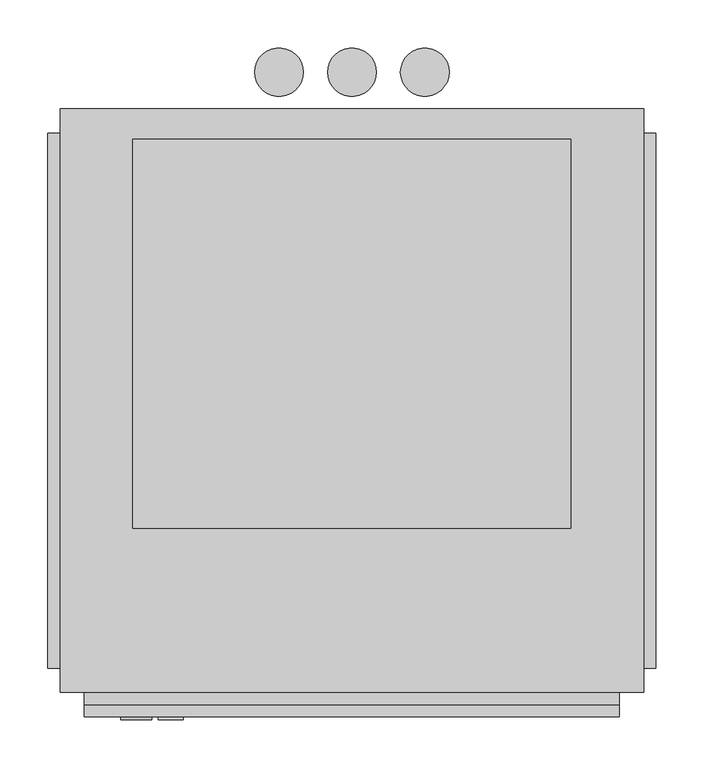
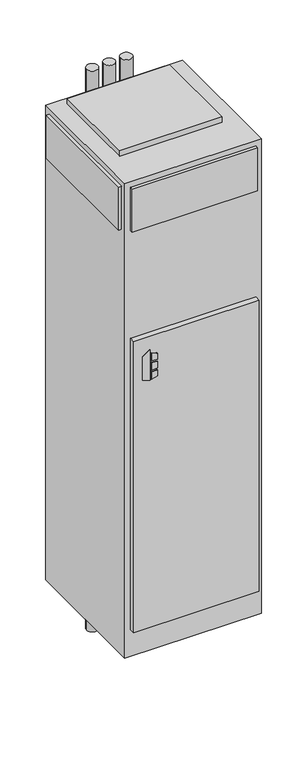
"""IFC4 building model written with IfcOpenShell, lengths in millimetres: proxy geometry, Concealed_Modular_Fan_Coil_Unit_-_MPY_-_IEC_-_2-Pipe_Cool-EHeat_-_WithRisers_2022 : Size 10 - 277v/60Hz/1Ph - 4 Row 8.0kW."""

from ifc_helpers import new_model, si_unit, point, frame, frame_2d, origin, origin_with_axes, place, context, project, spatial, polyline, circle_curve, trimmed, segment, composite_curve, outline, extrude, source, transform, mapped, element, save


def mechanical_equipment_66c7af25(model_context):
    return source(origin(), model_context, "Body", "SweptSolid", [
        extrude(outline(polyline([(1305.3480703, 215.9), (1295.4, 248.0733866), (1437.5709244, 248.0733866), (1414.5489183, 215.9), (1305.3480703, 215.9)])), frame((0.0, -393.7, 0.0), z_axis=(0.0, 1.0, 0.0), x_axis=(0.0, 0.0, 1.0)), (0.0, 0.0, 1.0), 3.175),
        extrude(outline(polyline([(1384.3473557, 254.8317195), (1381.1449632, 280.9131138), (1410.3738042, 280.9131138), (1418.4382193, 254.8317195), (1384.3473557, 254.8317195)])), frame((0.0, -393.7, 0.0), z_axis=(0.0, 1.0, 0.0), x_axis=(0.0, 0.0, 1.0)), (0.0, 0.0, 1.0), 3.175),
        extrude(outline(polyline([(1332.4838288, 280.9131138), (1328.8183279, 254.8317195), (1295.4, 254.8317195), (1304.0342372, 280.9131138), (1332.4838288, 280.9131138)])), frame((0.0, -393.7, 0.0), z_axis=(0.0, 1.0, 0.0), x_axis=(0.0, 0.0, 1.0)), (0.0, 0.0, 1.0), 3.175),
        extrude(outline(polyline([(1371.7989903, 280.9131138), (1374.0808166, 254.8317195), (1338.1432681, 254.8317195), (1340.8845331, 280.9131138), (1371.7989903, 280.9131138)])), frame((0.0, -393.7, 0.0), z_axis=(0.0, 1.0, 0.0), x_axis=(0.0, 0.0, 1.0)), (0.0, 0.0, 1.0), 3.175),
        extrude(outline(composite_curve([segment(trimmed(circle_curve(frame_2d((457.2, 282.575)), 25.4), [point((431.8, 282.575))], [point((482.6, 282.575))], False, "CARTESIAN"), True, "CONTINUOUS"), segment(trimmed(circle_curve(frame_2d((457.2, 282.575)), 25.4), [point((482.6, 282.575))], [point((431.8, 282.575))], False, "CARTESIAN"), True, "CONTINUOUS")], self_intersect=False)), frame((0.0, 0.0, -330.2), z_axis=(0.0, 0.0, 1.0), x_axis=(1.0, 0.0, 0.0)), (0.0, 0.0, 1.0), 2641.6),
        extrude(outline(composite_curve([segment(trimmed(circle_curve(frame_2d((533.4, 282.575)), 25.4), [point((508.0, 282.575))], [point((558.8, 282.575))], False, "CARTESIAN"), True, "CONTINUOUS"), segment(trimmed(circle_curve(frame_2d((533.4, 282.575)), 25.4), [point((558.8, 282.575))], [point((508.0, 282.575))], False, "CARTESIAN"), True, "CONTINUOUS")], self_intersect=False)), frame((0.0, 0.0, -330.2), z_axis=(0.0, 0.0, 1.0), x_axis=(1.0, 0.0, 0.0)), (0.0, 0.0, 1.0), 2641.6),
        extrude(outline(composite_curve([segment(trimmed(circle_curve(frame_2d((381.0, 282.575)), 25.4), [point((355.6, 282.575))], [point((406.4, 282.575))], False, "CARTESIAN"), True, "CONTINUOUS"), segment(trimmed(circle_curve(frame_2d((381.0, 282.575)), 25.4), [point((406.4, 282.575))], [point((355.6, 282.575))], False, "CARTESIAN"), True, "CONTINUOUS")], self_intersect=False)), frame((0.0, 0.0, -330.2), z_axis=(0.0, 0.0, 1.0), x_axis=(1.0, 0.0, 0.0)), (0.0, 0.0, 1.0), 2641.6),
        extrude(outline(polyline([(685.8, 212.725), (685.8, -193.675), (228.6, -193.675), (228.6, 212.725), (685.8, 212.725)])), frame((0.0, 0.0, 2235.2), z_axis=(0.0, 0.0, 1.0), x_axis=(1.0, 0.0, 0.0)), (0.0, 0.0, 1.0), 25.4),
        extrude(outline(polyline([(139.7, -339.725), (139.7, 219.075), (152.4, 219.075), (152.4, -339.725), (139.7, -339.725)])), frame((0.0, 0.0, 2006.6), z_axis=(0.0, 0.0, 1.0), x_axis=(1.0, 0.0, 0.0)), (0.0, 0.0, 1.0), 203.2),
        extrude(outline(polyline([(774.7, 219.075), (774.7, -339.725), (762.0, -339.725), (762.0, 219.075), (774.7, 219.075)])), frame((0.0, 0.0, 2006.6), z_axis=(0.0, 0.0, 1.0), x_axis=(1.0, 0.0, 0.0)), (0.0, 0.0, 1.0), 203.2),
        extrude(outline(polyline([(736.6, -377.825), (177.8, -377.825), (177.8, -365.125), (736.6, -365.125), (736.6, -377.825)])), frame((0.0, 0.0, 2006.6), z_axis=(0.0, 0.0, 1.0), x_axis=(1.0, 0.0, 0.0)), (0.0, 0.0, 1.0), 203.2),
        extrude(outline(polyline([(736.6, -390.525), (177.8, -390.525), (177.8, -365.125), (736.6, -365.125), (736.6, -390.525)])), frame((0.0, 0.0, 127.0), z_axis=(0.0, 0.0, 1.0), x_axis=(1.0, 0.0, 0.0)), (0.0, 0.0, 1.0), 1371.6),
        extrude(outline(polyline([(762.0, 244.475), (762.0, -365.125), (152.4, -365.125), (152.4, 244.475), (762.0, 244.475)])), origin_with_axes(), (0.0, 0.0, 1.0), 2235.2),
    ])


if __name__ == "__main__":
    model = new_model("IFC4")
    model_context = context("Model", 3, world=origin())
    ifc_project = project(units=[si_unit("LENGTHUNIT", "METRE", prefix="MILLI")], contexts=[model_context])
    site = spatial("IfcSite", under=ifc_project)
    building = spatial("IfcBuilding", under=site)
    placement = place(None, origin())
    mechanical_equipment_shape = mechanical_equipment_66c7af25(model_context)
    element("IfcBuildingElementProxy", 1, Name="Concealed_Modular_Fan_Coil_Unit_-_MPY_-_IEC_-_2-Pipe_Cool-EHeat_-_WithRisers_2022 : Size 10 - 277v/60Hz/1Ph - 4 Row 8.0kW", ObjectType="Concealed_Modular_Fan_Coil_Unit_-_MPY_-_IEC_-_2-Pipe_Cool-EHeat_-_WithRisers_2022 : Size 10 - 277v/60Hz/1Ph - 4 Row 8.0kW", at=placement, inside=building, context=model_context, shape_type="MappedRepresentation", body=[
        mapped(mechanical_equipment_shape, transform((0.0, 0.0, 0.0), x_axis=(1.0, 0.0, 0.0), y_axis=(0.0, 1.0, 0.0), z_axis=(0.0, 0.0, 1.0))),
    ])
    save(model, "model.ifc")
